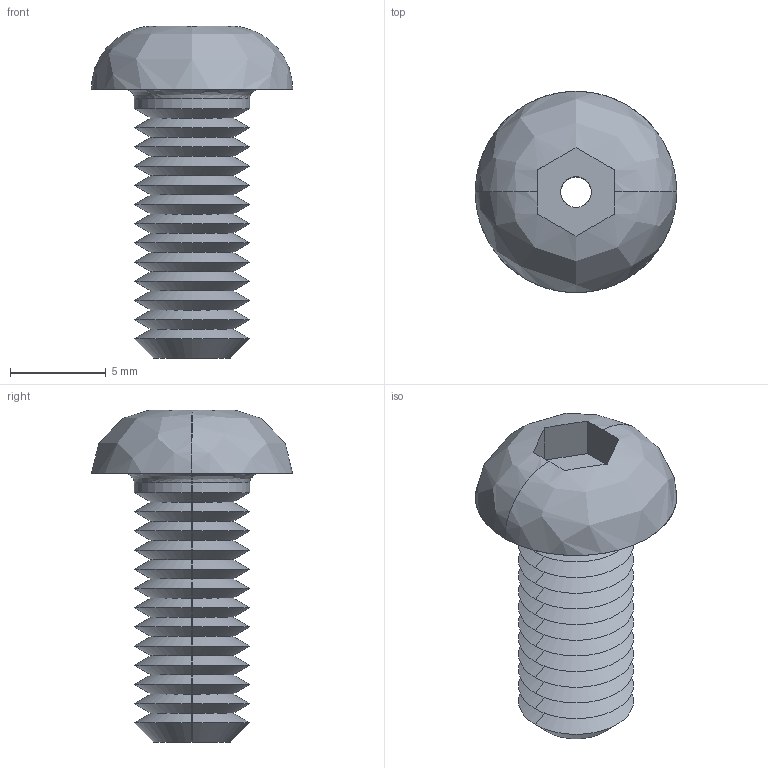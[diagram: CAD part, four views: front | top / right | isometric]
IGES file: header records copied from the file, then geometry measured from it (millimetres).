
Start section: SolidWorks IGES file using analytic representation for surfaces
Global section: file name: C:\Users\liam_\OneDrive\Documents\WORK\Work for WixRoyd\Job Files\J-00019 - Matt Davis CAD Checking\04. CAD Drawings\automotion20190605\P0094_v2\P0094_v2_20190712_IGES\P0094.060-014-A2.igs; native system: SolidWorks 2017; preprocessor: SolidWorks 2017; author: liam_; date: 190712.175524; units: millimetre
Bounding box: 10.5 x 10.5 x 17.3 mm (x, y, z)
Surface area: 740.2 mm2 (no closed solid volume)
Topology: 0 solids, 0 shells, 67 faces, 430 edges, 430 vertices
Faces by surface type: revolution 54, bspline 13
